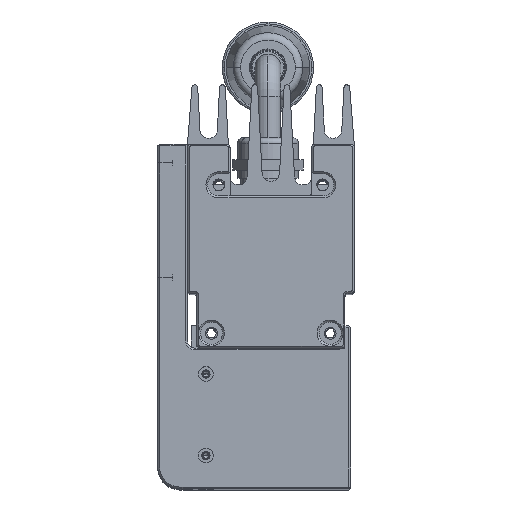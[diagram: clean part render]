
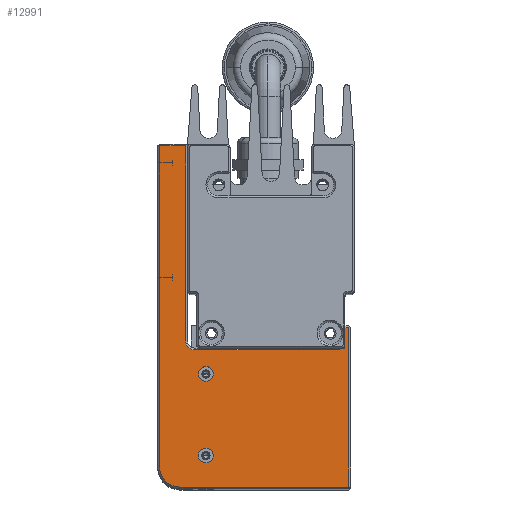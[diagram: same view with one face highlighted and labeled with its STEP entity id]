
A CAD part, top view. The second image highlights one B-rep face of the part: STEP entity #12991.
In plain terms, the highlighted planar face has unit normal (0, 0, 1).
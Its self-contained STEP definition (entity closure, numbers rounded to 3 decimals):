
#5=CARTESIAN_POINT('',(5.235,-66.313,85.));
#6=DIRECTION('',(0.,0.,1.));
#7=DIRECTION('',(-1.,0.,0.));
#8=AXIS2_PLACEMENT_3D('',#5,#6,#7);
#10=CARTESIAN_POINT('',(5.235,-66.313,85.));
#11=DIRECTION('',(0.,0.,1.));
#12=DIRECTION('',(1.,0.,0.));
#13=AXIS2_PLACEMENT_3D('',#10,#11,#12);
#15=CARTESIAN_POINT('',(5.235,-44.313,85.));
#16=DIRECTION('',(0.,0.,1.));
#17=DIRECTION('',(-1.,0.,0.));
#18=AXIS2_PLACEMENT_3D('',#15,#16,#17);
#20=CARTESIAN_POINT('',(5.235,-44.313,85.));
#21=DIRECTION('',(0.,0.,1.));
#22=DIRECTION('',(1.,0.,0.));
#23=AXIS2_PLACEMENT_3D('',#20,#21,#22);
#25=DIRECTION('',(-1.,0.,0.));
#26=VECTOR('',#25,39.);
#27=CARTESIAN_POINT('',(41.235,-37.813,85.));
#28=LINE('',#27,#26);
#29=DIRECTION('',(-1.,0.,0.));
#30=VECTOR('',#29,1.);
#31=CARTESIAN_POINT('',(43.735,-31.813,85.));
#32=LINE('',#31,#30);
#33=DIRECTION('',(0.,1.,0.));
#34=VECTOR('',#33,43.);
#35=CARTESIAN_POINT('',(43.735,-74.813,85.));
#36=LINE('',#35,#34);
#37=CARTESIAN_POINT('',(-1.765,-69.313,85.));
#38=DIRECTION('',(0.,0.,1.));
#39=DIRECTION('',(-1.,0.,0.));
#40=AXIS2_PLACEMENT_3D('',#37,#38,#39);
#42=DIRECTION('',(0.,-1.,0.));
#43=VECTOR('',#42,86.5);
#44=CARTESIAN_POINT('',(-7.265,17.187,85.));
#45=LINE('',#44,#43);
#46=DIRECTION('',(-1.,0.,0.));
#47=VECTOR('',#46,7.);
#48=CARTESIAN_POINT('',(-0.265,17.187,85.));
#49=LINE('',#48,#47);
#50=DIRECTION('',(0.,1.,0.));
#51=VECTOR('',#50,52.5);
#52=CARTESIAN_POINT('',(-0.265,-35.313,85.));
#53=LINE('',#52,#51);
#54=CARTESIAN_POINT('',(2.235,-35.313,85.));
#55=DIRECTION('',(0.,0.,-1.));
#56=DIRECTION('',(0.,-1.,0.));
#57=AXIS2_PLACEMENT_3D('',#54,#55,#56);
#556=DIRECTION('',(0.,1.,0.));
#557=VECTOR('',#556,0.5);
#558=CARTESIAN_POINT('',(41.235,-37.813,85.));
#559=LINE('',#558,#557);
#1334=DIRECTION('',(0.,-1.,0.));
#1335=VECTOR('',#1334,5.5);
#1336=CARTESIAN_POINT('',(42.735,-31.813,85.));
#1337=LINE('',#1336,#1335);
#1389=DIRECTION('',(-1.,0.,0.));
#1390=VECTOR('',#1389,1.5);
#1391=CARTESIAN_POINT('',(42.735,-37.313,85.));
#1392=LINE('',#1391,#1390);
#4882=DIRECTION('',(1.,0.,0.));
#4883=VECTOR('',#4882,45.5);
#4884=CARTESIAN_POINT('',(-1.765,-74.813,
85.));
#4885=LINE('',#4884,#4883);
#11791=CARTESIAN_POINT('',(-7.265,-69.313,85.));
#11792=CARTESIAN_POINT('',(-1.765,-74.813,85.));
#11793=VERTEX_POINT('',#11791);
#11794=VERTEX_POINT('',#11792);
#11815=CARTESIAN_POINT('',(2.235,-37.813,85.));
#11816=CARTESIAN_POINT('',(-0.265,-35.313,85.));
#11817=VERTEX_POINT('',#11815);
#11818=VERTEX_POINT('',#11816);
#11859=CARTESIAN_POINT('',(3.235,-66.313,85.));
#11860=CARTESIAN_POINT('',(7.235,-66.313,85.));
#11861=VERTEX_POINT('',#11859);
#11862=VERTEX_POINT('',#11860);
#11863=CARTESIAN_POINT('',(3.235,-44.313,85.));
#11864=CARTESIAN_POINT('',(7.235,-44.313,85.));
#11865=VERTEX_POINT('',#11863);
#11866=VERTEX_POINT('',#11864);
#11867=CARTESIAN_POINT('',(-7.265,17.187,85.));
#11869=VERTEX_POINT('',#11867);
#11875=CARTESIAN_POINT('',(-0.265,17.187,85.));
#11876=VERTEX_POINT('',#11875);
#12502=CARTESIAN_POINT('',(42.735,-37.313,85.));
#12504=VERTEX_POINT('',#12502);
#12506=CARTESIAN_POINT('',(41.235,-37.313,85.));
#12507=VERTEX_POINT('',#12506);
#12532=CARTESIAN_POINT('',(43.735,-31.813,85.));
#12533=VERTEX_POINT('',#12532);
#12536=CARTESIAN_POINT('',(43.735,-74.813,85.));
#12537=VERTEX_POINT('',#12536);
#12540=CARTESIAN_POINT('',(42.735,-31.813,85.));
#12541=VERTEX_POINT('',#12540);
#12665=CARTESIAN_POINT('',(41.235,-37.813,85.));
#12666=VERTEX_POINT('',#12665);
#12949=CARTESIAN_POINT('',(-7.765,17.687,85.));
#12950=DIRECTION('',(0.,0.,1.));
#12951=DIRECTION('',(0.,-1.,0.));
#12952=AXIS2_PLACEMENT_3D('',#12949,#12950,#12951);
#12953=PLANE('',#12952);
#12955=ORIENTED_EDGE('',*,*,#12954,.F.);
#12957=ORIENTED_EDGE('',*,*,#12956,.T.);
#12959=ORIENTED_EDGE('',*,*,#12958,.F.);
#12961=ORIENTED_EDGE('',*,*,#12960,.F.);
#12963=ORIENTED_EDGE('',*,*,#12962,.F.);
#12965=ORIENTED_EDGE('',*,*,#12964,.F.);
#12967=ORIENTED_EDGE('',*,*,#12966,.F.);
#12969=ORIENTED_EDGE('',*,*,#12968,.F.);
#12971=ORIENTED_EDGE('',*,*,#12970,.F.);
#12973=ORIENTED_EDGE('',*,*,#12972,.F.);
#12975=ORIENTED_EDGE('',*,*,#12974,.F.);
#12977=ORIENTED_EDGE('',*,*,#12976,.F.);
#12978=EDGE_LOOP('',(#12955,#12957,#12959,#12961,#12963,#12965,#12967,#12969,
#12971,#12973,#12975,#12977));
#12979=FACE_OUTER_BOUND('',#12978,.F.);
#12981=ORIENTED_EDGE('',*,*,#12980,.T.);
#12983=ORIENTED_EDGE('',*,*,#12982,.T.);
#12984=EDGE_LOOP('',(#12981,#12983));
#12985=FACE_BOUND('',#12984,.F.);
#12986=ORIENTED_EDGE('',*,*,#12938,.T.);
#12988=ORIENTED_EDGE('',*,*,#12987,.T.);
#12989=EDGE_LOOP('',(#12986,#12988));
#12990=FACE_BOUND('',#12989,.F.);
#9=CIRCLE('',#8,2.);
#14=CIRCLE('',#13,2.);
#19=CIRCLE('',#18,2.);
#24=CIRCLE('',#23,2.);
#41=CIRCLE('',#40,5.5);
#58=CIRCLE('',#57,2.5);
#12938=EDGE_CURVE('',#11861,#11862,#9,.T.);
#12954=EDGE_CURVE('',#12666,#11817,#28,.T.);
#12956=EDGE_CURVE('',#12666,#12507,#559,.T.);
#12958=EDGE_CURVE('',#12504,#12507,#1392,.T.);
#12960=EDGE_CURVE('',#12541,#12504,#1337,.T.);
#12962=EDGE_CURVE('',#12533,#12541,#32,.T.);
#12964=EDGE_CURVE('',#12537,#12533,#36,.T.);
#12966=EDGE_CURVE('',#11794,#12537,#4885,.T.);
#12968=EDGE_CURVE('',#11793,#11794,#41,.T.);
#12970=EDGE_CURVE('',#11869,#11793,#45,.T.);
#12972=EDGE_CURVE('',#11876,#11869,#49,.T.);
#12974=EDGE_CURVE('',#11818,#11876,#53,.T.);
#12976=EDGE_CURVE('',#11817,#11818,#58,.T.);
#12980=EDGE_CURVE('',#11865,#11866,#19,.T.);
#12982=EDGE_CURVE('',#11866,#11865,#24,.T.);
#12987=EDGE_CURVE('',#11862,#11861,#14,.T.);
#12991=ADVANCED_FACE('',(#12979,#12985,#12990),#12953,.T.);
